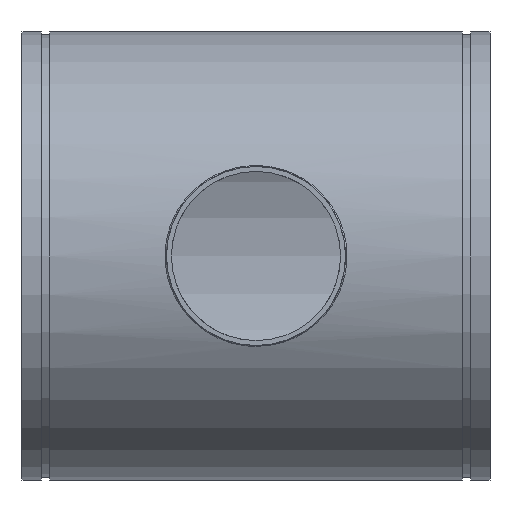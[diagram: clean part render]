
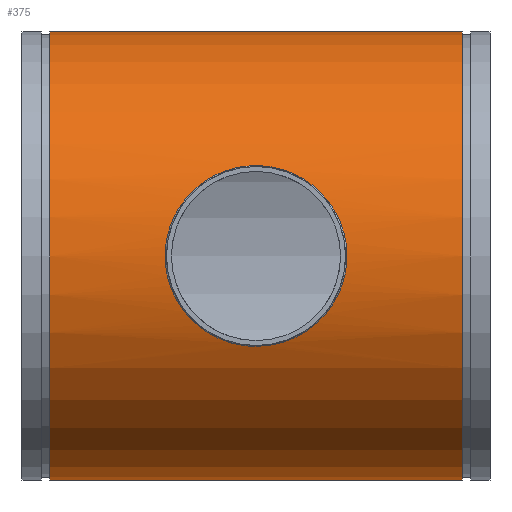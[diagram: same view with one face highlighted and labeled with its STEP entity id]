
A CAD part, front view. The second image highlights one B-rep face of the part: STEP entity #375.
In plain terms, the highlighted cylindrical face has radius 486.41 mm (diameter 972.82 mm), a full revolution.
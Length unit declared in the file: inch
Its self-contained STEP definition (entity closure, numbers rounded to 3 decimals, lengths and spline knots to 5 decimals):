
#54=FACE_BOUND('',#119,.T.);
#65=LINE('',#840,#76);
#76=VECTOR('',#483,19.15);
#87=CYLINDRICAL_SURFACE('',#415,19.15);
#98=FACE_OUTER_BOUND('',#118,.T.);
#118=EDGE_LOOP('',(#266,#267,#268,#269));
#119=EDGE_LOOP('',(#270));
#150=B_SPLINE_CURVE_WITH_KNOTS('',3,(#805,#806,#807,#808,#809,#810,#811,
#812,#813,#814,#815,#816,#817,#818,#819,#820,#821,#822,#823,#824,#825,#826,
#827,#828,#829,#830,#831,#832,#833,#834,#835),.UNSPECIFIED.,.T.,.F.,(4,
1,1,1,1,1,1,1,1,1,1,1,1,1,1,1,1,1,1,1,1,1,1,1,1,1,1,1,4),(-118.56062,
-114.32631,-110.092,-101.62339,-95.97764,
-93.15477,-90.3319,-88.92046,-87.50903,
-84.68616,-79.04041,-73.39467,-67.74892,
-62.10318,-56.45744,-50.81169,-45.16595,
-39.52021,-36.69733,-33.87446,-29.64015,
-28.22872,-23.99441,-22.58297,-16.93723,
-12.70292,-8.46862,-4.23431,0.),.UNSPECIFIED.);
#154=CIRCLE('',#416,19.15);
#155=CIRCLE('',#417,19.15);
#182=VERTEX_POINT('',#766);
#185=VERTEX_POINT('',#837);
#186=VERTEX_POINT('',#839);
#219=EDGE_CURVE('',#182,#182,#150,.T.);
#220=EDGE_CURVE('',#185,#185,#154,.T.);
#221=EDGE_CURVE('',#185,#186,#65,.T.);
#222=EDGE_CURVE('',#186,#186,#155,.T.);
#266=ORIENTED_EDGE('',*,*,#220,.T.);
#267=ORIENTED_EDGE('',*,*,#221,.T.);
#268=ORIENTED_EDGE('',*,*,#222,.T.);
#269=ORIENTED_EDGE('',*,*,#221,.F.);
#270=ORIENTED_EDGE('',*,*,#219,.F.);
#375=ADVANCED_FACE('',(#98,#54),#87,.T.);
#415=AXIS2_PLACEMENT_3D('',#836,#479,#480);
#416=AXIS2_PLACEMENT_3D('',#838,#481,#482);
#417=AXIS2_PLACEMENT_3D('',#841,#484,#485);
#479=DIRECTION('center_axis',(-1.,0.,0.));
#480=DIRECTION('ref_axis',(0.,-1.,0.));
#481=DIRECTION('center_axis',(1.,0.,0.));
#482=DIRECTION('ref_axis',(0.,-1.,0.));
#483=DIRECTION('',(1.,0.,0.));
#484=DIRECTION('center_axis',(-1.,0.,0.));
#485=DIRECTION('ref_axis',(0.,-1.,0.));
#766=CARTESIAN_POINT('',(0.,-17.52294,-7.72458));
#805=CARTESIAN_POINT('Ctrl Pts',(0.,-17.52294,
-7.72458));
#806=CARTESIAN_POINT('Ctrl Pts',(0.58796,-17.52294,-7.72458));
#807=CARTESIAN_POINT('Ctrl Pts',(1.76339,-17.58263,-7.5911));
#808=CARTESIAN_POINT('Ctrl Pts',(3.97531,-17.90938,-6.81378));
#809=CARTESIAN_POINT('Ctrl Pts',(5.96378,-18.47301,-5.23284));
#810=CARTESIAN_POINT('Ctrl Pts',(7.13982,-18.90173,-3.2249));
#811=CARTESIAN_POINT('Ctrl Pts',(7.6049,-19.08188,-1.74254));
#812=CARTESIAN_POINT('Ctrl Pts',(7.75274,-19.14112,-0.77895));
#813=CARTESIAN_POINT('Ctrl Pts',(7.78244,-19.15298,0.00006));
#814=CARTESIAN_POINT('Ctrl Pts',(7.75269,-19.141,0.77874));
#815=CARTESIAN_POINT('Ctrl Pts',(7.54598,-19.05871,2.12869));
#816=CARTESIAN_POINT('Ctrl Pts',(6.82088,-18.77765,3.94129));
#817=CARTESIAN_POINT('Ctrl Pts',(5.36625,-18.29255,5.74475));
#818=CARTESIAN_POINT('Ctrl Pts',(3.44664,-17.81494,7.05237));
#819=CARTESIAN_POINT('Ctrl Pts',(1.19252,-17.51058,7.7535));
#820=CARTESIAN_POINT('Ctrl Pts',(-1.19262,-17.51048,7.75366));
#821=CARTESIAN_POINT('Ctrl Pts',(-3.44662,-17.81495,7.05221));
#822=CARTESIAN_POINT('Ctrl Pts',(-5.3664,-18.29265,5.74485));
#823=CARTESIAN_POINT('Ctrl Pts',(-6.57837,-18.69668,4.24159));
#824=CARTESIAN_POINT('Ctrl Pts',(-7.25614,-18.94651,2.85396));
#825=CARTESIAN_POINT('Ctrl Pts',(-7.6631,-19.10474,1.55754));
#826=CARTESIAN_POINT('Ctrl Pts',(-7.79733,-19.15899,0.3895));
#827=CARTESIAN_POINT('Ctrl Pts',(-7.74536,-19.13815,-0.97372));
#828=CARTESIAN_POINT('Ctrl Pts',(-7.56016,-19.06386,-1.93384));
#829=CARTESIAN_POINT('Ctrl Pts',(-7.04185,-18.8659,-3.39224));
#830=CARTESIAN_POINT('Ctrl Pts',(-6.25734,-18.58022,-4.73086));
#831=CARTESIAN_POINT('Ctrl Pts',(-4.89355,-18.16944,-6.08414));
#832=CARTESIAN_POINT('Ctrl Pts',(-3.42188,-17.82773,-7.00817));
#833=CARTESIAN_POINT('Ctrl Pts',(-1.76365,-17.5826,-7.59107));
#834=CARTESIAN_POINT('Ctrl Pts',(-0.58796,-17.52294,-7.72458));
#835=CARTESIAN_POINT('Ctrl Pts',(0.,-17.52294,
-7.72458));
#836=CARTESIAN_POINT('Origin',(20.,0.,0.));
#837=CARTESIAN_POINT('',(-17.625,19.15,0.));
#838=CARTESIAN_POINT('Origin',(-17.625,0.,0.));
#839=CARTESIAN_POINT('',(17.625,19.15,0.));
#840=CARTESIAN_POINT('',(20.,19.15,0.));
#841=CARTESIAN_POINT('Origin',(17.625,0.,0.));
